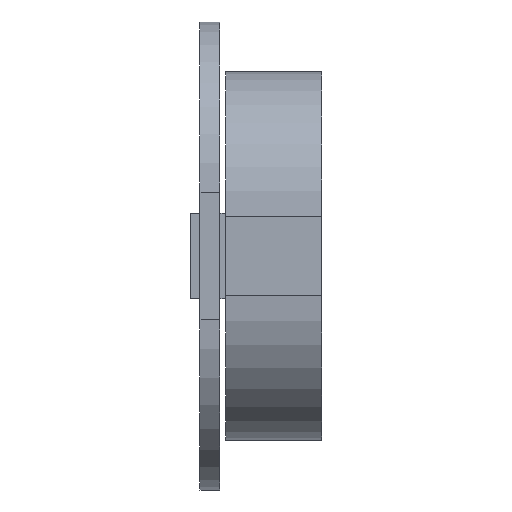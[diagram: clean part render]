
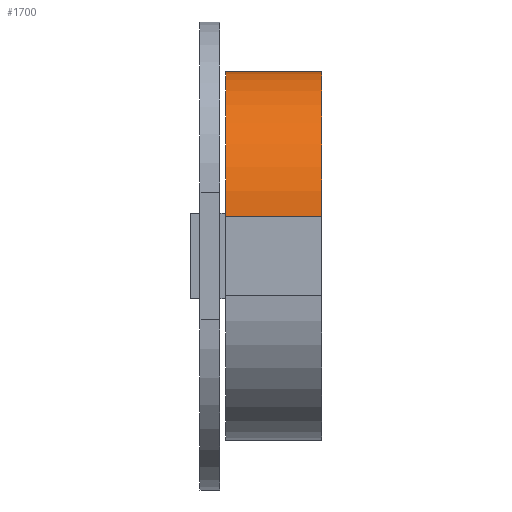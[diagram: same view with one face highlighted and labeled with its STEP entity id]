
A CAD part, front view. The second image highlights one B-rep face of the part: STEP entity #1700.
In plain terms, the highlighted cylindrical face has radius 5.1 mm (diameter 10.2 mm), a partial arc.
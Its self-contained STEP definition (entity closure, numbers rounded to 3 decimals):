
#962 = PLANE('',#963);
#963 = AXIS2_PLACEMENT_3D('',#964,#965,#966);
#964 = CARTESIAN_POINT('',(40.9,-4.5,6.5));
#965 = DIRECTION('',(1.,0.,0.));
#966 = DIRECTION('',(0.,0.,-1.));
#1300 = VERTEX_POINT('',#1301);
#1301 = CARTESIAN_POINT('',(40.9,0.6,6.5));
#1317 = PLANE('',#1318);
#1318 = AXIS2_PLACEMENT_3D('',#1319,#1320,#1321);
#1319 = CARTESIAN_POINT('',(40.9,-4.5,6.5));
#1320 = DIRECTION('',(0.,0.,-1.));
#1321 = DIRECTION('',(1.,0.,0.));
#1329 = EDGE_CURVE('',#1300,#1330,#1332,.T.);
#1330 = VERTEX_POINT('',#1331);
#1331 = CARTESIAN_POINT('',(40.9,-4.5,1.4));
#1332 = SURFACE_CURVE('',#1333,(#1338,#1345),.PCURVE_S1.);
#1333 = CIRCLE('',#1334,5.1);
#1334 = AXIS2_PLACEMENT_3D('',#1335,#1336,#1337);
#1335 = CARTESIAN_POINT('',(40.9,0.6,1.4));
#1336 = DIRECTION('',(1.,0.,0.));
#1337 = DIRECTION('',(0.,-1.,0.));
#1338 = PCURVE('',#962,#1339);
#1339 = DEFINITIONAL_REPRESENTATION('',(#1340),#1344);
#1340 = CIRCLE('',#1341,5.1);
#1341 = AXIS2_PLACEMENT_2D('',#1342,#1343);
#1342 = CARTESIAN_POINT('',(5.1,5.1));
#1343 = DIRECTION('',(0.,-1.));
#1344 = ( GEOMETRIC_REPRESENTATION_CONTEXT(2) 
PARAMETRIC_REPRESENTATION_CONTEXT() REPRESENTATION_CONTEXT('2D SPACE',''
  ) );
#1345 = PCURVE('',#1346,#1351);
#1346 = CYLINDRICAL_SURFACE('',#1347,5.1);
#1347 = AXIS2_PLACEMENT_3D('',#1348,#1349,#1350);
#1348 = CARTESIAN_POINT('',(40.9,0.6,1.4));
#1349 = DIRECTION('',(1.,0.,0.));
#1350 = DIRECTION('',(0.,0.,1.));
#1351 = DEFINITIONAL_REPRESENTATION('',(#1352),#1356);
#1352 = LINE('',#1353,#1354);
#1353 = CARTESIAN_POINT('',(-4.712,0.));
#1354 = VECTOR('',#1355,1.);
#1355 = DIRECTION('',(1.,0.));
#1356 = ( GEOMETRIC_REPRESENTATION_CONTEXT(2) 
PARAMETRIC_REPRESENTATION_CONTEXT() REPRESENTATION_CONTEXT('2D SPACE',''
  ) );
#1374 = PLANE('',#1375);
#1375 = AXIS2_PLACEMENT_3D('',#1376,#1377,#1378);
#1376 = CARTESIAN_POINT('',(40.9,-4.5,6.5));
#1377 = DIRECTION('',(0.,1.,0.));
#1378 = DIRECTION('',(1.,0.,0.));
#1552 = VERTEX_POINT('',#1553);
#1553 = CARTESIAN_POINT('',(44.3,0.6,6.5));
#1569 = PLANE('',#1570);
#1570 = AXIS2_PLACEMENT_3D('',#1571,#1572,#1573);
#1571 = CARTESIAN_POINT('',(44.3,-4.5,6.5));
#1572 = DIRECTION('',(1.,0.,0.));
#1573 = DIRECTION('',(0.,0.,-1.));
#1581 = EDGE_CURVE('',#1300,#1552,#1582,.T.);
#1582 = SURFACE_CURVE('',#1583,(#1587,#1594),.PCURVE_S1.);
#1583 = LINE('',#1584,#1585);
#1584 = CARTESIAN_POINT('',(40.9,0.6,6.5));
#1585 = VECTOR('',#1586,1.);
#1586 = DIRECTION('',(1.,0.,0.));
#1587 = PCURVE('',#1317,#1588);
#1588 = DEFINITIONAL_REPRESENTATION('',(#1589),#1593);
#1589 = LINE('',#1590,#1591);
#1590 = CARTESIAN_POINT('',(0.,-5.1));
#1591 = VECTOR('',#1592,1.);
#1592 = DIRECTION('',(1.,0.));
#1593 = ( GEOMETRIC_REPRESENTATION_CONTEXT(2) 
PARAMETRIC_REPRESENTATION_CONTEXT() REPRESENTATION_CONTEXT('2D SPACE',''
  ) );
#1594 = PCURVE('',#1346,#1595);
#1595 = DEFINITIONAL_REPRESENTATION('',(#1596),#1600);
#1596 = LINE('',#1597,#1598);
#1597 = CARTESIAN_POINT('',(0.,0.));
#1598 = VECTOR('',#1599,1.);
#1599 = DIRECTION('',(0.,1.));
#1600 = ( GEOMETRIC_REPRESENTATION_CONTEXT(2) 
PARAMETRIC_REPRESENTATION_CONTEXT() REPRESENTATION_CONTEXT('2D SPACE',''
  ) );
#1700 = ADVANCED_FACE('',(#1701),#1346,.T.);
#1701 = FACE_BOUND('',#1702,.T.);
#1702 = EDGE_LOOP('',(#1703,#1704,#1727,#1749));
#1703 = ORIENTED_EDGE('',*,*,#1329,.T.);
#1704 = ORIENTED_EDGE('',*,*,#1705,.T.);
#1705 = EDGE_CURVE('',#1330,#1706,#1708,.T.);
#1706 = VERTEX_POINT('',#1707);
#1707 = CARTESIAN_POINT('',(44.3,-4.5,1.4));
#1708 = SURFACE_CURVE('',#1709,(#1713,#1720),.PCURVE_S1.);
#1709 = LINE('',#1710,#1711);
#1710 = CARTESIAN_POINT('',(40.9,-4.5,1.4));
#1711 = VECTOR('',#1712,1.);
#1712 = DIRECTION('',(1.,0.,0.));
#1713 = PCURVE('',#1346,#1714);
#1714 = DEFINITIONAL_REPRESENTATION('',(#1715),#1719);
#1715 = LINE('',#1716,#1717);
#1716 = CARTESIAN_POINT('',(1.571,0.));
#1717 = VECTOR('',#1718,1.);
#1718 = DIRECTION('',(0.,1.));
#1719 = ( GEOMETRIC_REPRESENTATION_CONTEXT(2) 
PARAMETRIC_REPRESENTATION_CONTEXT() REPRESENTATION_CONTEXT('2D SPACE',''
  ) );
#1720 = PCURVE('',#1374,#1721);
#1721 = DEFINITIONAL_REPRESENTATION('',(#1722),#1726);
#1722 = LINE('',#1723,#1724);
#1723 = CARTESIAN_POINT('',(0.,5.1));
#1724 = VECTOR('',#1725,1.);
#1725 = DIRECTION('',(1.,0.));
#1726 = ( GEOMETRIC_REPRESENTATION_CONTEXT(2) 
PARAMETRIC_REPRESENTATION_CONTEXT() REPRESENTATION_CONTEXT('2D SPACE',''
  ) );
#1727 = ORIENTED_EDGE('',*,*,#1728,.F.);
#1728 = EDGE_CURVE('',#1552,#1706,#1729,.T.);
#1729 = SURFACE_CURVE('',#1730,(#1735,#1742),.PCURVE_S1.);
#1730 = CIRCLE('',#1731,5.1);
#1731 = AXIS2_PLACEMENT_3D('',#1732,#1733,#1734);
#1732 = CARTESIAN_POINT('',(44.3,0.6,1.4));
#1733 = DIRECTION('',(1.,0.,0.));
#1734 = DIRECTION('',(0.,-1.,0.));
#1735 = PCURVE('',#1346,#1736);
#1736 = DEFINITIONAL_REPRESENTATION('',(#1737),#1741);
#1737 = LINE('',#1738,#1739);
#1738 = CARTESIAN_POINT('',(-4.712,3.4));
#1739 = VECTOR('',#1740,1.);
#1740 = DIRECTION('',(1.,0.));
#1741 = ( GEOMETRIC_REPRESENTATION_CONTEXT(2) 
PARAMETRIC_REPRESENTATION_CONTEXT() REPRESENTATION_CONTEXT('2D SPACE',''
  ) );
#1742 = PCURVE('',#1569,#1743);
#1743 = DEFINITIONAL_REPRESENTATION('',(#1744),#1748);
#1744 = CIRCLE('',#1745,5.1);
#1745 = AXIS2_PLACEMENT_2D('',#1746,#1747);
#1746 = CARTESIAN_POINT('',(5.1,5.1));
#1747 = DIRECTION('',(0.,-1.));
#1748 = ( GEOMETRIC_REPRESENTATION_CONTEXT(2) 
PARAMETRIC_REPRESENTATION_CONTEXT() REPRESENTATION_CONTEXT('2D SPACE',''
  ) );
#1749 = ORIENTED_EDGE('',*,*,#1581,.F.);
